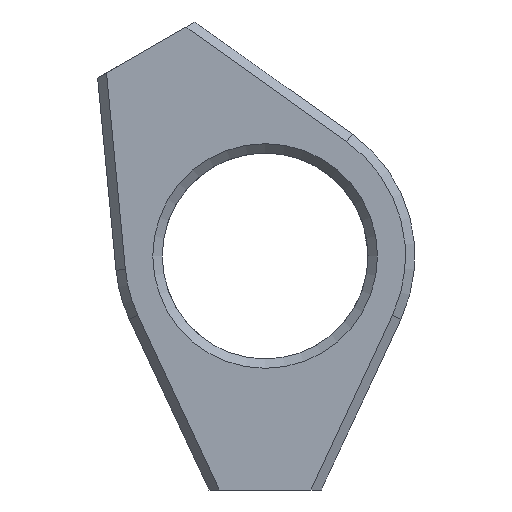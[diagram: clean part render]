
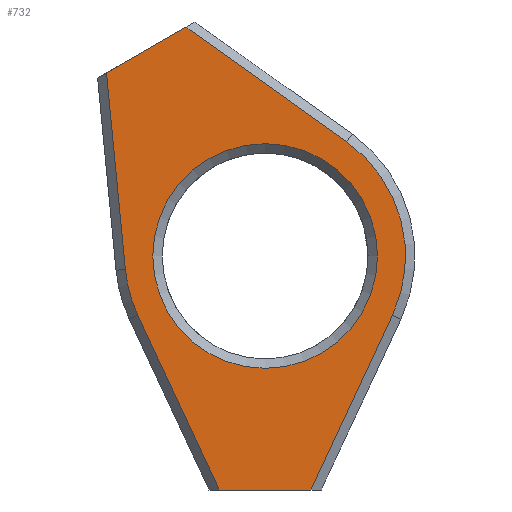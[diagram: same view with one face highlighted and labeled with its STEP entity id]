
A CAD part, left-side view. The second image highlights one B-rep face of the part: STEP entity #732.
In plain terms, the highlighted planar face has unit normal (-1, 0, 0).
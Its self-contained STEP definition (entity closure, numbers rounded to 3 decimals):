
#38=FACE_BOUND('',#152,.T.);
#69=CIRCLE('',#802,12.);
#70=CIRCLE('',#804,15.);
#71=CIRCLE('',#805,15.);
#99=FACE_OUTER_BOUND('',#151,.T.);
#151=EDGE_LOOP('',(#561,#562,#563,#564,#565,#566,#567,#568));
#152=EDGE_LOOP('',(#569));
#221=LINE('',#1182,#285);
#222=LINE('',#1186,#286);
#223=LINE('',#1188,#287);
#224=LINE('',#1190,#288);
#225=LINE('',#1194,#289);
#226=LINE('',#1195,#290);
#285=VECTOR('',#951,20.591);
#286=VECTOR('',#954,21.076);
#287=VECTOR('',#955,9.802);
#288=VECTOR('',#956,21.076);
#289=VECTOR('',#959,20.591);
#290=VECTOR('',#960,9.793);
#356=VERTEX_POINT('',#1177);
#357=VERTEX_POINT('',#1180);
#358=VERTEX_POINT('',#1181);
#359=VERTEX_POINT('',#1183);
#360=VERTEX_POINT('',#1185);
#361=VERTEX_POINT('',#1187);
#362=VERTEX_POINT('',#1189);
#363=VERTEX_POINT('',#1191);
#364=VERTEX_POINT('',#1193);
#435=EDGE_CURVE('',#356,#356,#69,.T.);
#436=EDGE_CURVE('',#357,#358,#221,.T.);
#437=EDGE_CURVE('',#359,#357,#70,.T.);
#438=EDGE_CURVE('',#360,#359,#222,.T.);
#439=EDGE_CURVE('',#360,#361,#223,.T.);
#440=EDGE_CURVE('',#362,#361,#224,.T.);
#441=EDGE_CURVE('',#363,#362,#71,.T.);
#442=EDGE_CURVE('',#364,#363,#225,.T.);
#443=EDGE_CURVE('',#358,#364,#226,.T.);
#561=ORIENTED_EDGE('',*,*,#436,.F.);
#562=ORIENTED_EDGE('',*,*,#437,.F.);
#563=ORIENTED_EDGE('',*,*,#438,.F.);
#564=ORIENTED_EDGE('',*,*,#439,.T.);
#565=ORIENTED_EDGE('',*,*,#440,.F.);
#566=ORIENTED_EDGE('',*,*,#441,.F.);
#567=ORIENTED_EDGE('',*,*,#442,.F.);
#568=ORIENTED_EDGE('',*,*,#443,.F.);
#569=ORIENTED_EDGE('',*,*,#435,.F.);
#698=PLANE('',#803);
#732=ADVANCED_FACE('',(#99,#38),#698,.F.);
#802=AXIS2_PLACEMENT_3D('',#1178,#947,#948);
#803=AXIS2_PLACEMENT_3D('',#1179,#949,#950);
#804=AXIS2_PLACEMENT_3D('',#1184,#952,#953);
#805=AXIS2_PLACEMENT_3D('',#1192,#957,#958);
#947=DIRECTION('center_axis',(-1.,0.,0.));
#948=DIRECTION('ref_axis',(0.,0.,-1.));
#949=DIRECTION('center_axis',(1.,0.,0.));
#950=DIRECTION('ref_axis',(0.,0.,-1.));
#951=DIRECTION('',(0.,0.422,-0.906));
#952=DIRECTION('center_axis',(1.,0.,0.));
#953=DIRECTION('ref_axis',(0.,-0.58,0.814));
#954=DIRECTION('',(0.,-0.814,-0.58));
#955=DIRECTION('',(0.,0.866,-0.5));
#956=DIRECTION('',(0.,0.096,0.995));
#957=DIRECTION('center_axis',(1.,0.,0.));
#958=DIRECTION('ref_axis',(0.,0.906,-0.422));
#959=DIRECTION('',(0.,0.422,0.906));
#960=DIRECTION('',(0.,1.,0.));
#1177=CARTESIAN_POINT('',(0.,0.,12.));
#1178=CARTESIAN_POINT('Origin',(0.,0.,0.));
#1179=CARTESIAN_POINT('Origin',(0.,0.95,0.));
#1180=CARTESIAN_POINT('',(0.,-13.596,-6.337));
#1181=CARTESIAN_POINT('',(0.,-4.897,-25.));
#1182=CARTESIAN_POINT('',(0.,-13.511,-6.519));
#1183=CARTESIAN_POINT('',(0.,-8.706,12.215));
#1184=CARTESIAN_POINT('Origin',(0.,0.,0.));
#1185=CARTESIAN_POINT('',(0.,8.456,24.447));
#1186=CARTESIAN_POINT('',(0.,0.004,18.423));
#1187=CARTESIAN_POINT('',(0.,16.944,19.547));
#1188=CARTESIAN_POINT('',(0.,15.654,20.291));
#1189=CARTESIAN_POINT('',(0.,14.931,-1.433));
#1190=CARTESIAN_POINT('',(0.,15.009,-0.623));
#1191=CARTESIAN_POINT('',(0.,13.596,-6.337));
#1192=CARTESIAN_POINT('Origin',(0.,0.,0.));
#1193=CARTESIAN_POINT('',(0.,4.897,-25.));
#1194=CARTESIAN_POINT('',(0.,9.429,-15.275));
#1195=CARTESIAN_POINT('',(0.,-16.,-25.));
